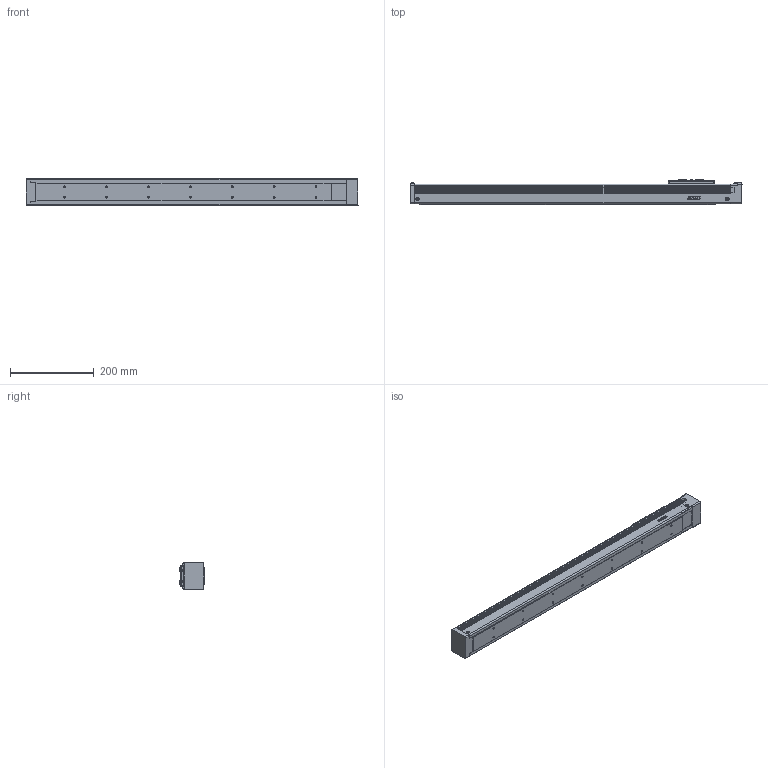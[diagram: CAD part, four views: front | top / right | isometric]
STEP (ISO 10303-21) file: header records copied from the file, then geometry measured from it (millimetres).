
FILE_DESCRIPTION(/* description */ (''),/* implementation_level */ '2;1');
FILE_NAME(/* name */ 'D:\混合母檔20191031\混和母檔\混和母檔\bin\Debug\Download\3D\KE655C-600AF0\KE655C-600AF0.stp',/* time_stamp */ '2019-11-04T13:51:01+08:00',/* author */ ('user'),/* organization */ (''),/* preprocessor_version */ 'ST-DEVELOPER v16.13',/* originating_system */ 'Autodesk Inventor 2018',/* authorisation */ '');
FILE_SCHEMA (('AUTOMOTIVE_DESIGN { 1 0 10303 214 3 1 1 }'));
Length unit declared in the file: millimetre
Products named in the file (3): KE655C-600AF0; KE65-F0-BP; KE65-SL
Assembly tree (2 placements, depth 2):
  KE655C-600AF0
    KE65-F0-BP
    KE65-SL
Bounding box: 792 x 60 x 64.57 mm (x, y, z)
Volume: 2348864.2 mm3; surface area: 246687.2 mm2
Topology: 2 solids, 17 shells, 1092 faces, 2958 edges, 1938 vertices
Faces by surface type: plane 581, cone 168, cylinder 143, bspline 136, torus 54, sphere 10
Full cylindrical faces by diameter (mm): 2.459 x8, 2.729 x4, 3 x4, 3.242 x8, 3.5 x6, 3.571 x4, 4.134 x14, 4.2 x4, 6 x1, 8 x1, 8.4 x8, 30 x1
Entity records: 39623 total; most frequent: CARTESIAN_POINT 12943, ORIENTED_EDGE 5468, DIRECTION 4946, EDGE_CURVE 2734, VERTEX_POINT 1861, LINE 1652, VECTOR 1652, AXIS2_PLACEMENT_3D 1647
